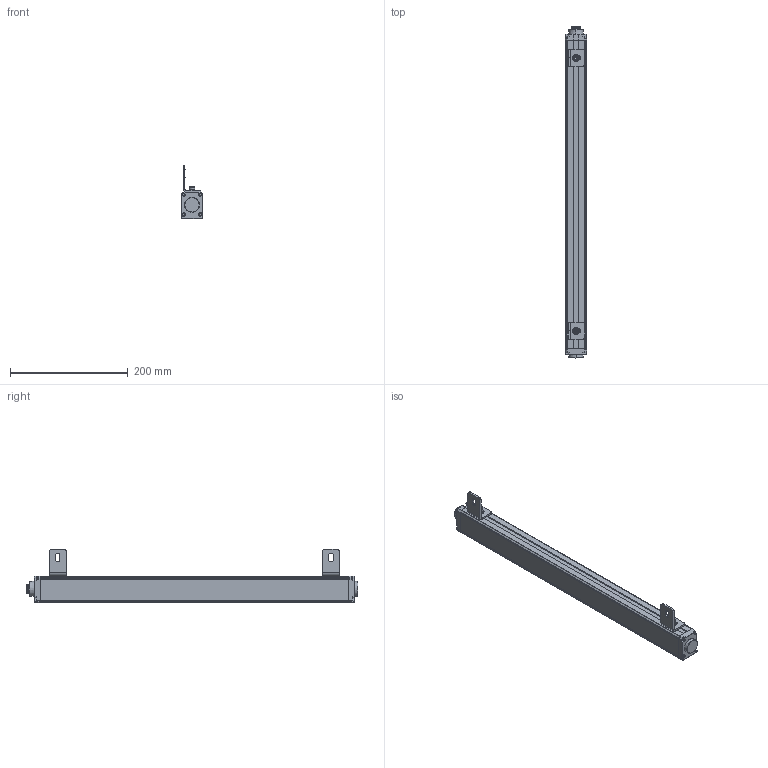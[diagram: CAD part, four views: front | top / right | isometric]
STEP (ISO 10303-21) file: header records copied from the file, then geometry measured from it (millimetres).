
FILE_DESCRIPTION((''),'2;1');
FILE_NAME('ESCL-00_ASM','2021-07-17T12:16:47',('18720616900'),(''),'CREO PARAMETRIC BY PTC INC, 2019010','CREO PARAMETRIC BY PTC INC, 2019010','');
FILE_SCHEMA(('CONFIG_CONTROL_DESIGN'));
Products named in the file (12): ESCL-00; ESCL-3-SOLID1000; ESCL-4-SOLID1000; HKCT1_-4-SOLID1; L10001; M6-8--0001; M6-1--00; M6-1-00; 00; M6-80001_ASM; L1--0001_ASM; ESCL-00_ASM
Assembly tree (12 placements, depth 4):
  ESCL-00_ASM
    ESCL-00
    ESCL-3-SOLID1000
    ESCL-4-SOLID1000
    HKCT1_-4-SOLID1
    L1--0001_ASM  x2
      L10001
      M6-80001_ASM
        M6-8--0001
        M6-1--00
        M6-1-00
        00
Bounding box: 36.1 x 565.1 x 91.11 mm (x, y, z)
Volume: 803614.4 mm3; surface area: 131003.4 mm2
Topology: 14 solids, 14 shells, 625 faces, 1645 edges, 1070 vertices
Faces by surface type: plane 226, cylinder 208, cone 78, bspline 66, torus 47
Entity records: 76177 total; most frequent: CARTESIAN_POINT 63991, ORIENTED_EDGE 2664, DIRECTION 2275, EDGE_CURVE 1332, VERTEX_POINT 872, AXIS2_PLACEMENT_3D 816, VECTOR 643, LINE 643
